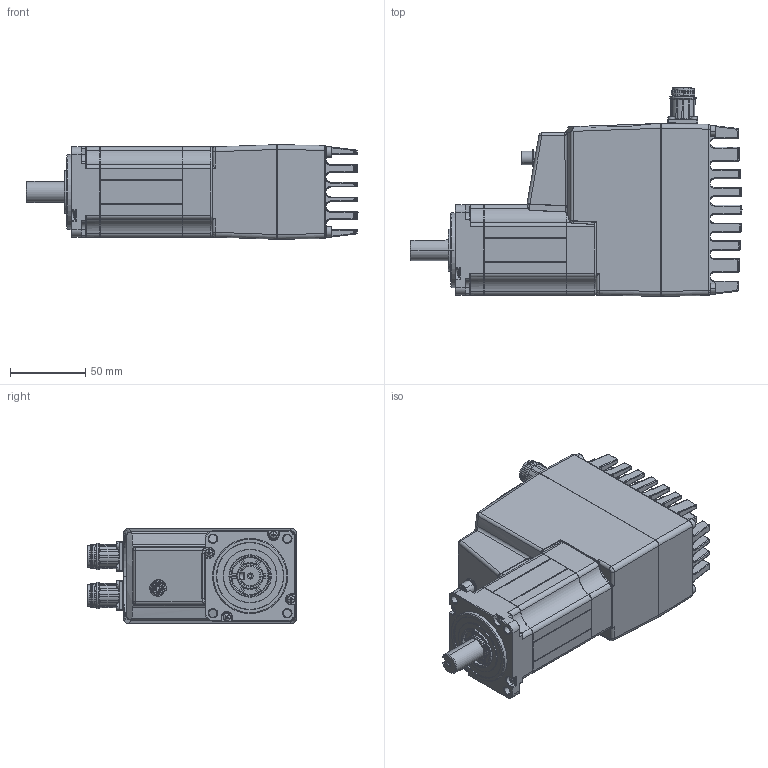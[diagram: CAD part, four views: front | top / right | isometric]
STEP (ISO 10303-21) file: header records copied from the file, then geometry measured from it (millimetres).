
FILE_DESCRIPTION((''),'2;1');
FILE_NAME('STEPPERASSY_ASM','2022-09-09T16:44:16',('Administrator'),(''),'CREO PARAMETRIC BY PTC INC, 2022014','CREO PARAMETRIC BY PTC INC, 2022014','');
FILE_SCHEMA(('AUTOMOTIVE_DESIGN { 1 0 10303 214 1 1 1 1 }'));
Products named in the file (9): NEW_REAR_PART; 400_F; SHAFT_KEY; NEW_CONNECTORS; FINS_BOLT_NEW; STOPIN_MAC400; 400_BEARING; MAC400_ASM; STEPPERASSY_ASM
Assembly tree (11 placements, depth 3):
  STEPPERASSY_ASM
    MAC400_ASM
      NEW_REAR_PART
      400_F
      SHAFT_KEY
      NEW_CONNECTORS
      FINS_BOLT_NEW  x4
      STOPIN_MAC400
      400_BEARING
Bounding box: 221.05 x 138.87 x 63 mm (x, y, z)
Volume: 904027.3 mm3; surface area: 137850 mm2
Topology: 11 solids, 24 shells, 3491 faces, 8421 edges, 4917 vertices
Faces by surface type: cylinder 1399, plane 755, bspline 503, torus 330, cone 274, sphere 216, extrusion 14
Entity records: 167043 total; most frequent: CARTESIAN_POINT 59413, ORIENTED_EDGE 16130, DIRECTION 14534, PRESENTATION_STYLE_ASSIGNMENT 8707, STYLED_ITEM 8140, CURVE_STYLE 8132, EDGE_CURVE 8065, AXIS2_PLACEMENT_3D 5843
